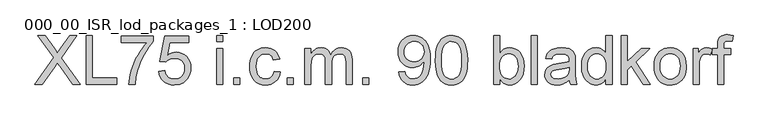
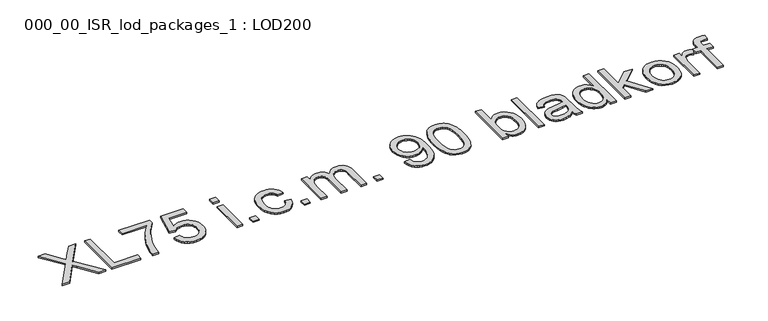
"""IFC4 building model written with IfcOpenShell, lengths in millimetres: proxy geometry, 000_00_ISR_lod_packages_1 : LOD200."""

import ifcopenshell
import ifcopenshell.guid

model = None  # the IFC model being written
_history = None  # IfcOwnerHistory: only IFC2X3 demands one
_inside = {}  # id of a spatial element -> (the spatial element, [elements in it])
_under = {}  # id of a project, library or spatial element -> (it, [spatial elements below it])
_declared = {}  # id of a project -> (the project, [libraries it declares])
_typed = {}  # id of a type object -> (the type object, [elements of that type])
_made_of = {}  # id of a material, layer set ... -> (it, [elements and type objects made of it])


def new_model(schema):
    """Start an empty IFC model of exactly this schema.

    Asked for "IFC4X3", IfcOpenShell would pick the latest addendum, in which some entities
    have other attributes; the version numbers below select the first issue.
    IFC2X3 requires an IfcOwnerHistory on every rooted entity: one is made here for all.
    """
    global model, _history
    if schema == "IFC4X3":
        model = ifcopenshell.file(schema_version=(4, 3, 0, 0))
    else:
        model = ifcopenshell.file(schema=schema)
    _inside.clear()
    _under.clear()
    _declared.clear()
    _typed.clear()
    _made_of.clear()
    _history = None
    if model.schema == "IFC2X3":
        org = make("IfcOrganization", Name="unknown")
        user = make(
            "IfcPersonAndOrganization",
            ThePerson=make("IfcPerson", FamilyName="unknown"),
            TheOrganization=org,
        )
        app = make(
            "IfcApplication",
            ApplicationDeveloper=org,
            Version="unknown",
            ApplicationFullName="unknown",
            ApplicationIdentifier="unknown",
        )
        _history = make(
            "IfcOwnerHistory",
            OwningUser=user,
            OwningApplication=app,
            ChangeAction="ADDED",
            CreationDate=0,
        )
    return model


def make(cls, **values):
    """One entity of the class cls with the attributes given. An attribute that is None is left unset."""
    return model.create_entity(
        cls, **{name: value for name, value in values.items() if value is not None}
    )


def rooted(cls, **values):
    """An entity with a GlobalId (a new one), such as an element, a storey or a relation."""
    return make(cls, GlobalId=ifcopenshell.guid.new(), OwnerHistory=_history, **values)


def si_unit(unit_type, name, prefix=None):
    """IfcSIUnit, for example si_unit("LENGTHUNIT", "METRE", prefix="MILLI")."""
    return make("IfcSIUnit", UnitType=unit_type, Prefix=prefix, Name=name)


def assignment(units):
    """IfcUnitAssignment: the units of a project."""
    return None if units is None else make("IfcUnitAssignment", Units=units)


def point(xyz):
    """IfcCartesianPoint."""
    return None if xyz is None else make("IfcCartesianPoint", Coordinates=xyz)


def direction(xyz):
    """IfcDirection."""
    return None if xyz is None else make("IfcDirection", DirectionRatios=xyz)


def frame(location, z_axis=None, x_axis=None):
    """IfcAxis2Placement3D, a coordinate frame: its origin and axes. An axis left out is left unset."""
    return make(
        "IfcAxis2Placement3D",
        Location=point(location),
        Axis=direction(z_axis),
        RefDirection=direction(x_axis),
    )


def origin():
    """The frame at (0, 0, 0) with its axes left unset."""
    return frame((0.0, 0.0, 0.0))


def origin_with_axes():
    """The frame at (0, 0, 0) with the z axis (0, 0, 1) and the x axis (1, 0, 0) written out."""
    return frame((0.0, 0.0, 0.0), z_axis=(0.0, 0.0, 1.0), x_axis=(1.0, 0.0, 0.0))


def place(relative_to, where):
    """IfcLocalPlacement: puts the frame where relative to a parent placement (None: the world)."""
    return make(
        "IfcLocalPlacement", PlacementRelTo=relative_to, RelativePlacement=where
    )


def context(
    kind, dimensions, precision=None, world=None, true_north=None, identifier=None
):
    """IfcGeometricRepresentationContext, for example the 3D "Model" context."""
    return make(
        "IfcGeometricRepresentationContext",
        ContextIdentifier=identifier,
        ContextType=kind,
        CoordinateSpaceDimension=dimensions,
        Precision=precision,
        WorldCoordinateSystem=world,
        TrueNorth=true_north,
    )


def project(units=None, contexts=None):
    """IfcProject with its units and contexts."""
    return rooted(
        "IfcProject",
        Name="project",
        RepresentationContexts=contexts,
        UnitsInContext=assignment(units),
    )


def spatial(cls, under=None, at=None, **own):
    """A site, building, storey or space (cls), placed at a placement, below another one or the project."""
    s = rooted(cls, ObjectPlacement=at, **own)
    if under is not None:
        _under.setdefault(under.id(), (under, []))[1].append(s)
    return s


def polyline(points):
    """IfcPolyline through the points."""
    return make("IfcPolyline", Points=[point(p) for p in points])


def outline(outer, holes=None, kind="AREA"):
    """IfcArbitraryClosedProfileDef: a profile drawn as a closed curve; with holes, ...WithVoids."""
    if holes is None:
        return make("IfcArbitraryClosedProfileDef", ProfileType=kind, OuterCurve=outer)
    return make(
        "IfcArbitraryProfileDefWithVoids",
        ProfileType=kind,
        OuterCurve=outer,
        InnerCurves=holes,
    )


def extrude(swept, where, along, depth):
    """IfcExtrudedAreaSolid: the profile swept, set in the frame where, extruded along a direction by depth."""
    return make(
        "IfcExtrudedAreaSolid",
        SweptArea=swept,
        Position=where,
        ExtrudedDirection=direction(along),
        Depth=depth,
    )


def shape(context_of_items, identifier, shape_type, items):
    """IfcShapeRepresentation: the items that make up one representation, for example the "Body"."""
    return make(
        "IfcShapeRepresentation",
        ContextOfItems=context_of_items,
        RepresentationIdentifier=identifier,
        RepresentationType=shape_type,
        Items=items,
    )


def source(mapping_origin, context_of_items, identifier, shape_type, items):
    """IfcRepresentationMap: a shape defined once, which mapped items show again and again."""
    return make(
        "IfcRepresentationMap",
        MappingOrigin=mapping_origin,
        MappedRepresentation=shape(context_of_items, identifier, shape_type, items),
    )


def transform(
    local_origin,
    x_axis=None,
    y_axis=None,
    z_axis=None,
    scale=None,
    scale2=None,
    scale3=None,
    uniform=True,
):
    """IfcCartesianTransformationOperator3D, or its non-uniform kind. x_axis, y_axis, z_axis: its Axis1, 2, 3."""
    if uniform:
        return make(
            "IfcCartesianTransformationOperator3D",
            Axis1=direction(x_axis),
            Axis2=direction(y_axis),
            LocalOrigin=point(local_origin),
            Scale=scale,
            Axis3=direction(z_axis),
        )
    return make(
        "IfcCartesianTransformationOperator3DnonUniform",
        Axis1=direction(x_axis),
        Axis2=direction(y_axis),
        LocalOrigin=point(local_origin),
        Scale=scale,
        Axis3=direction(z_axis),
        Scale2=scale2,
        Scale3=scale3,
    )


def mapped(mapping_source, mapping_target):
    """IfcMappedItem: shows the shape of a source again, moved by a transform."""
    return make(
        "IfcMappedItem", MappingSource=mapping_source, MappingTarget=mapping_target
    )


def made_of(thing, what):
    """Note that an element or type object is made of a material, layer set ...; save() writes the relation."""
    if what is not None:
        _made_of.setdefault(what.id(), (what, []))[1].append(thing)
    return thing


def element(
    cls,
    number,
    at=None,
    inside=None,
    cuts=None,
    type_object=None,
    material=None,
    context=None,
    identifier="Body",
    shape_type=None,
    held_by="IfcProductDefinitionShape",
    body=None,
    shapes=None,
    **own,
):
    """One element of the class cls, such as IfcWall. Its Tag is "e" and its number.

    at: its placement. inside: the storey or other place that contains it. cuts: it is an
    opening in that element (IfcRelVoidsElement). A single representation is given by context,
    identifier, shape_type and body (its items); several are given by shapes. held_by: the class
    of the entity that holds the representations. save() writes the other relations.
    """
    e = rooted(cls, Tag="e%d" % number, ObjectPlacement=at, **own)
    if body is not None:
        shapes = [shape(context, identifier, shape_type, body)]
    if shapes is not None:
        e.Representation = make(held_by, Representations=shapes)
    if inside is not None:
        _inside.setdefault(inside.id(), (inside, []))[1].append(e)
    if cuts is not None:
        rooted(
            "IfcRelVoidsElement", RelatingBuildingElement=cuts, RelatedOpeningElement=e
        )
    if type_object is not None:
        _typed.setdefault(type_object.id(), (type_object, []))[1].append(e)
    return made_of(e, material)


def aggregate(whole, parts):
    """IfcRelAggregates: a whole, such as a stair, and the parts it consists of."""
    return rooted("IfcRelAggregates", RelatingObject=whole, RelatedObjects=parts)


def save(model, path):
    """Write the relations noted so far, then the file.

    IfcRelAggregates (storeys below a building ...), IfcRelContainedInSpatialStructure (elements
    in a storey), IfcRelDefinesByType, IfcRelAssociatesMaterial and IfcRelDeclares: one each for
    every whole, place, type object, material and project.
    """
    for whole, parts in _under.values():
        aggregate(whole, parts)
    for where, things in _inside.values():
        rooted(
            "IfcRelContainedInSpatialStructure",
            RelatedElements=things,
            RelatingStructure=where,
        )
    for kind, things in _typed.values():
        rooted("IfcRelDefinesByType", RelatedObjects=things, RelatingType=kind)
    for what, things in _made_of.values():
        rooted("IfcRelAssociatesMaterial", RelatedObjects=things, RelatingMaterial=what)
    for by, libraries in _declared.values():
        rooted("IfcRelDeclares", RelatingContext=by, RelatedDefinitions=libraries)
    model.write(path)


def proxy_000_00_isr_lod_packages_1_lod200_f1342aa7(model_context):
    return source(origin(), model_context, "Body", "SweptSolid", [
        extrude(outline(polyline([(500.0, 500.0), (808.1627819, 935.6043884), (549.9617936, 1299.3886983), (669.7920331, 1299.3886983), (815.1886591, 1094.6624423), (849.878928, 1042.7978069), (864.1746365, 1014.8406705), (921.5526339, 1096.0285851), (1065.3879539, 1299.3886983), (1186.9746626, 1299.3886983), (928.7736744, 934.4334088), (1236.9364563, 500.0), (1117.1062168, 500.0), (911.7944711, 789.6222725), (869.0537179, 849.7325555), (822.0193731, 783.7673749), (621.5867088, 500.0), (500.0, 500.0)])), origin_with_axes(), (0.0, 0.0, 1.0), 25.0),
        extrude(outline(polyline([(1336.8600436, 500.0), (1336.8600436, 1299.3886983), (1436.7836309, 1299.3886983), (1436.7836309, 599.9235873), (1836.47798, 599.9235873), (1836.47798, 500.0), (1336.8600436, 500.0)])), origin_with_axes(), (0.0, 0.0, 1.0), 25.0),
        extrude(outline(polyline([(1911.4206705, 1186.9746626), (1911.4206705, 1286.8982499), (2436.0195038, 1286.8982499), (2436.0195038, 1206.1006618), (2398.5420597, 1161.9998647), (2361.2475812, 1111.4708778), (2324.1360682, 1054.5137012), (2287.2075208, 991.1283348), (2252.4623623, 924.059262), (2221.9010161, 856.050966), (2195.5234822, 787.1034468), (2173.3297606, 717.2167044), (2149.5198434, 613.3410612), (2136.2487419, 500.0), (2036.3251546, 500.0), (2039.4660633, 549.0713613), (2047.13232, 602.9974086), (2059.3239246, 661.7781419), (2076.0408773, 725.4135612), (2097.0880147, 790.8847349), (2122.2701737, 855.1727313), (2151.5873541, 918.2775505), (2185.039556, 980.1991924), (2221.1203631, 1039.1201993), (2258.3233588, 1093.2231133), (2296.6485433, 1142.5079344), (2336.0959165, 1186.9746626), (1911.4206705, 1186.9746626)])), origin_with_axes(), (0.0, 0.0, 1.0), 25.0),
        extrude(outline(polyline([(2523.4526427, 712.337623), (2623.37623, 724.8280714), (2630.8412245, 692.7054192), (2641.7215761, 664.8397655), (2656.0172846, 641.2311103), (2673.7283501, 621.8794536), (2694.8181795, 606.8091909), (2719.2501797, 596.0447176), (2747.0243506, 589.5860336), (2778.1406923, 587.4331389), (2816.1975273, 590.4276751), (2849.7656074, 599.4112837), (2878.8449326, 614.3839648), (2903.4355029, 635.3457183), (2922.9884217, 661.2597395), (2936.9547922, 691.0892235), (2945.3346146, 724.8341703), (2948.1278887, 762.4945799), (2945.5114813, 798.0874788), (2937.662259, 829.7283217), (2924.580222, 857.4171087), (2906.2653702, 881.1538398), (2882.656715, 900.194455), (2853.693268, 913.7948944), (2819.3750291, 921.9551581), (2779.7019984, 924.675246), (2731.2283246, 920.3328635), (2691.9761146, 907.3057162), (2660.6280165, 887.3502732), (2635.8666784, 862.2230039), (2535.9430911, 874.7134523), (2623.37623, 1286.8982499), (3010.5801307, 1286.8982499), (3010.5801307, 1186.9746626), (2704.1738181, 1186.9746626), (2661.433065, 966.8305094), (2696.6966259, 992.1041511), (2732.814026, 1010.1567523), (2769.7852654, 1020.988313), (2807.610344, 1024.5988333), (2856.2730823, 1020.1222761), (2900.9715668, 1006.6926045), (2941.7057978, 984.3098185), (2978.475775, 952.9739182), (3008.9151442, 914.5999429), (3030.6575507, 871.1029321), (3043.7029947, 822.4828858), (3048.051476, 768.7398041), (3044.1360131, 716.9727503), (3032.3896246, 668.8162168), (3012.8123105, 624.2702035), (2985.4040707, 583.3347105), (2965.5096162, 560.8756889), (2943.8830878, 541.4112035), (2920.5244856, 524.9412543), (2895.4338094, 511.4658413), (2868.6110594, 500.9849646), (2840.0562354, 493.498624), (2777.7503658, 487.5095516), (2726.1845741, 491.3579271), (2679.6076432, 502.9030534), (2638.0195731, 522.1449308), (2601.4203636, 549.083559), (2570.9687968, 582.3771908), (2547.8236543, 620.6840787), (2531.9849363, 664.0042228), (2523.4526427, 712.337623)])), origin_with_axes(), (0.0, 0.0, 1.0), 25.0),
        extrude(outline(polyline([(3472.726722, 500.0), (3472.726722, 1087.0510753), (3572.6503093, 1087.0510753), (3572.6503093, 500.0), (3472.726722, 500.0)])), origin_with_axes(), (0.0, 0.0, 1.0), 25.0),
        extrude(outline(polyline([(3472.726722, 1199.465111), (3472.726722, 1299.3886983), (3572.6503093, 1299.3886983), (3572.6503093, 1199.465111), (3472.726722, 1199.465111)])), origin_with_axes(), (0.0, 0.0, 1.0), 25.0),
        extrude(outline(polyline([(3747.516587, 500.0), (3747.516587, 599.9235873), (3847.4401743, 599.9235873), (3847.4401743, 500.0), (3747.516587, 500.0)])), origin_with_axes(), (0.0, 0.0, 1.0), 25.0),
        extrude(outline(polyline([(4409.5103528, 712.337623), (4509.4339401, 699.8471746), (4498.5657863, 652.6969516), (4481.5743853, 610.9747067), (4458.4597371, 574.6804398), (4429.2218417, 543.8141511), (4395.0926673, 519.1808888), (4357.3041817, 501.5857015), (4315.8563851, 491.0285891), (4270.7492775, 487.5095516), (4214.7069287, 492.4191273), (4164.458489, 507.1478543), (4120.0039585, 531.6957326), (4081.3433371, 566.0627623), (4050.0501287, 609.602465), (4027.697837, 661.6683625), (4014.286462, 722.2604548), (4009.8160037, 791.3787419), (4011.7249443, 837.3213922), (4017.4517661, 880.3000006), (4026.9964691, 920.314567), (4040.3590533, 957.3650914), (4057.6310015, 990.707514), (4078.9037964, 1019.5977748), (4104.1774381, 1044.0358739), (4133.4519266, 1064.0218111), (4165.403811, 1079.5616854), (4198.7096405, 1090.6615956), (4233.369415, 1097.3215417), (4269.3831347, 1099.5415238), (4313.7156882, 1096.4920979), (4353.8156385, 1087.3438202), (4389.6829857, 1072.0966908), (4421.3177298, 1050.7507096), (4448.1831719, 1023.7937849), (4469.7426128, 991.7138246), (4485.9960528, 954.5108288), (4496.9434917, 912.1847976), (4397.0199044, 899.6943492), (4389.219473, 923.0346549), (4378.894117, 943.2889416), (4366.0438363, 960.4572093), (4350.668631, 974.539458), (4333.1588276, 985.5112923), (4313.9047526, 993.3483169), (4292.906406, 998.0505316), (4270.1637877, 999.6179365), (4236.21148, 996.5319175), (4205.5891453, 987.2738605), (4178.2967836, 971.8437655), (4154.334395, 950.2416326), (4134.8241683, 921.9673558), (4120.888292, 886.5208294), (4112.5267662, 843.9020532), (4109.739591, 794.1110274), (4112.4657777, 743.5698429), (4120.6443379, 700.4570598), (4134.2752716, 664.7726781), (4153.3585788, 636.5166979), (4176.8452569, 615.0426408), (4203.6863035, 599.7040286), (4233.8817186, 590.5008613), (4267.4315021, 587.4331389), (4294.467712, 589.3481783), (4319.1741605, 595.0932967), (4341.5508476, 604.668494), (4361.5977734, 618.0737701), (4378.7538434, 635.4554977), (4392.4579633, 656.960049), (4402.7101331, 682.5874241), (4409.5103528, 712.337623)])), origin_with_axes(), (0.0, 0.0, 1.0), 25.0),
        extrude(outline(polyline([(4621.8479758, 500.0), (4621.8479758, 599.9235873), (4721.7715631, 599.9235873), (4721.7715631, 500.0), (4621.8479758, 500.0)])), origin_with_axes(), (0.0, 0.0, 1.0), 25.0),
        extrude(outline(polyline([(4909.1282893, 500.0), (4909.1282893, 1087.0510753), (5009.0518766, 1087.0510753), (5009.0518766, 990.4452634), (5039.1070181, 1034.8205088), (5057.3547826, 1053.4037102), (5077.7493428, 1069.5839639), (5099.961361, 1082.6903963), (5123.6614989, 1092.0521338), (5148.8497567, 1097.6691763), (5175.5261343, 1099.5415238), (5204.6908435, 1097.6325832), (5231.0988716, 1091.9057613), (5254.7502187, 1082.3610583), (5275.6448849, 1068.9984741), (5293.7218815, 1052.1961375), (5308.9202201, 1032.3321773), (5321.2399007, 1009.4065935), (5330.6809232, 983.4193862), (5367.1032659, 1034.2228214), (5387.2355756, 1054.1813138), (5408.6486441, 1070.5109894), (5431.3424715, 1083.2118482), (5455.3170578, 1092.2838902), (5480.572403, 1097.7271154), (5507.108507, 1099.5415238), (5547.1108757, 1096.5225921), (5582.2219653, 1087.4657973), (5612.4417758, 1072.3711392), (5637.7703072, 1051.2386178), (5657.7928375, 1023.8242791), (5672.0946449, 989.884169), (5680.6757293, 949.4182876), (5683.5360908, 902.4266348), (5683.5360908, 500.0), (5583.6125035, 500.0), (5583.6125035, 859.4907183), (5581.2949398, 909.330535), (5574.3422488, 942.9230105), (5561.3151015, 965.9278793), (5540.7741687, 984.0048759), (5514.3539429, 995.7146713), (5483.6889162, 999.6179365), (5455.3719475, 997.1174072), (5429.555508, 989.6158196), (5406.2395977, 977.1131735), (5385.4242166, 959.6094689), (5368.3047397, 936.5924023), (5356.0765419, 907.5496702), (5348.7396233, 872.4812726), (5346.2939837, 831.3872094), (5346.2939837, 500.0), (5246.3703964, 500.0), (5246.3703964, 870.615024), (5244.9249685, 900.8897241), (5240.5886849, 927.1147867), (5233.3615456, 949.2902117), (5223.2435505, 967.4159992), (5209.8321755, 981.5043467), (5192.7248963, 991.5674521), (5171.9217129, 997.6053154), (5147.4226254, 999.6179365), (5108.9266731, 994.2509469), (5073.4557512, 978.1499783), (5057.6475274, 966.1718334), (5044.1812627, 951.705357), (5033.0569571, 934.7505491), (5024.2746106, 915.3074097), (5012.8575601, 864.8089171), (5009.0518766, 796.06266), (5009.0518766, 500.0), (4909.1282893, 500.0)])), origin_with_axes(), (0.0, 0.0, 1.0), 25.0),
        extrude(outline(polyline([(5858.4023686, 500.0), (5858.4023686, 599.9235873), (5958.3259559, 599.9235873), (5958.3259559, 500.0), (5858.4023686, 500.0)])), origin_with_axes(), (0.0, 0.0, 1.0), 25.0),
        extrude(outline(polyline([(6445.4534439, 699.8471746), (6545.3770312, 712.337623), (6552.5736763, 681.7152883), (6562.4538161, 655.6183016), (6575.0174508, 634.0466629), (6590.2645802, 617.0003722), (6608.0244365, 604.0647076), (6628.1262519, 594.8249472), (6650.5700264, 589.281091), (6675.35576, 587.4331389), (6717.730582, 592.1902433), (6756.2509298, 606.4615564), (6788.2577038, 628.6857722), (6811.0918048, 657.3015847), (6828.3881484, 694.9193024), (6843.7816503, 744.1492338), (6854.613211, 800.6489965), (6858.2237313, 860.0762081), (6857.6382415, 879.5925338), (6841.6653487, 857.3683179), (6823.0211589, 837.3396887), (6801.705672, 819.5066462), (6777.718888, 803.8691903), (6751.8780531, 791.1469855), (6725.0004133, 782.0596964), (6697.0859688, 776.6073229), (6668.1347195, 774.7898651), (6620.6673562, 779.2298291), (6577.0178742, 792.5497214), (6537.1862733, 814.7495418), (6501.1725536, 845.8292904), (6471.330872, 884.1666726), (6450.015385, 928.1393938), (6437.2260929, 977.747454), (6432.9629955, 1032.9908533), (6437.4334538, 1090.0761058), (6450.8448289, 1141.3064606), (6473.1971206, 1186.6819178), (6504.490329, 1226.2024772), (6542.5166697, 1258.2214489), (6585.0683585, 1281.0921431), (6632.1453953, 1294.8145595), (6683.74778, 1299.3886983), (6721.847307, 1296.7783898), (6758.2757486, 1288.9474641), (6793.0331048, 1275.8959213), (6826.1193756, 1257.6237615), (6856.4306689, 1234.521311), (6882.8630924, 1206.9788964), (6905.4166462, 1174.9965178), (6924.0913303, 1138.574175), (6938.7346734, 1095.6138632), (6949.1942042, 1044.0175773), (6955.4699226, 983.7853173), (6957.5618288, 914.9170832), (6955.4760215, 842.5908001), (6949.2185996, 778.0344542), (6938.7895631, 721.2480454), (6924.1889119, 672.2315738), (6905.4715359, 629.7896644), (6882.6923245, 592.7269422), (6855.8512779, 561.0434073), (6824.948396, 534.7390596), (6790.6057618, 514.0761499), (6753.445458, 499.3169286), (6713.4674847, 490.4613958), (6670.6718418, 487.5095516), (6625.7964906, 490.9919959), (6585.2391263, 501.439329), (6548.9997492, 518.8515508), (6517.078359, 543.2286613), (6490.2800044, 573.9119845), (6469.4097336, 610.2428445), (6454.4675468, 652.2212412), (6445.4534439, 699.8471746)]), holes=[polyline([(6857.6382415, 1035.3328124), (6854.942549, 1071.1452699), (6846.8554716, 1103.0544624), (6833.3770092, 1131.0603897), (6814.5071618, 1155.1630518), (6791.172955, 1174.5452027), (6764.3014141, 1188.3895962), (6733.8925392, 1196.6962323), (6699.9463303, 1199.465111), (6664.9145258, 1196.4827725), (6633.2004966, 1187.535757), (6604.8042428, 1172.6240644), (6579.7257643, 1151.7476949), (6559.2336224, 1126.1264186), (6544.5963782, 1096.980006), (6535.8140316, 1064.3084571), (6532.8865828, 1028.1117719), (6535.6554615, 995.647584), (6543.9620976, 966.3669966), (6557.8064911, 940.27001), (6577.188642, 917.3566239), (6601.3035019, 898.7002363), (6629.3460223, 885.3742452), (6661.3162032, 877.3786506), (6697.2140447, 874.7134523), (6730.690642, 877.3786506), (6761.056825, 885.3742452), (6788.3125935, 898.7002363), (6812.4579476, 917.3566239), (6832.2243262, 940.721325), (6846.343168, 968.1722568), (6854.8144731, 999.7094192), (6857.6382415, 1035.3328124)])]), origin_with_axes(), (0.0, 0.0, 1.0), 25.0),
        extrude(outline(polyline([(7044.9949677, 893.2539617), (7046.8307221, 960.469407), (7052.3379852, 1021.2078717), (7061.5167571, 1075.4693558), (7074.3670378, 1123.2538594), (7090.8339375, 1164.9517089), (7110.8625667, 1200.9532309), (7134.4529253, 1231.2584253), (7161.6050134, 1255.8672922), (7192.4103137, 1274.9079074), (7226.9603089, 1288.5083468), (7265.2549991, 1296.6686105), (7307.2943843, 1299.3886983), (7338.8864365, 1297.7786015), (7368.8683917, 1292.9483109), (7397.2402501, 1284.8978266), (7424.0020117, 1273.6271485), (7448.5071981, 1259.3253411), (7470.109331, 1242.1814688), (7488.8084105, 1222.1955316), (7504.6044366, 1199.3675294), (7530.6587313, 1145.5512615), (7551.4436181, 1081.098596), (7559.3843231, 1043.1942323), (7565.0562553, 999.2520054), (7569.593801, 893.2539617), (7567.7763431, 826.465436), (7562.3239697, 766.0319139), (7553.2366805, 711.9533953), (7540.5144758, 664.2298803), (7524.1756519, 622.5137342), (7504.2385055, 586.4573226), (7480.7030365, 556.0606454), (7453.569245, 531.3237027), (7422.7273516, 512.1550116), (7388.0675771, 498.4630894), (7349.5899213, 490.247936), (7307.2943843, 487.5095516), (7252.258346, 492.266656), (7203.4675319, 506.5379691), (7160.921942, 530.323491), (7124.6215763, 563.6232216), (7105.9590899, 591.8700535), (7089.784935, 623.8188885), (7076.0991117, 659.4697265), (7064.9016198, 698.8225675), (7049.9716307, 788.6342586), (7044.9949677, 893.2539617)]), holes=[polyline([(7144.918555, 893.449125), (7147.8460038, 806.5831793), (7156.6283504, 736.2695173), (7171.2655946, 682.508139), (7180.7798033, 661.8345563), (7191.7577365, 645.2990444), (7216.5434701, 619.9827107), (7244.0614892, 601.8996153), (7274.311794, 591.049758), (7307.2943843, 587.4331389), (7340.2769747, 591.0619557), (7370.5272794, 601.9484061), (7398.0452986, 620.0924901), (7422.8310321, 645.4942077), (7433.8089653, 662.069362), (7443.3231741, 682.7642908), (7457.9604183, 736.5134714), (7466.7427648, 806.7417494), (7469.6702137, 893.449125), (7466.8403465, 978.0158035), (7458.3507448, 1047.0913986), (7444.2014087, 1100.6759102), (7424.3923382, 1138.7693383), (7400.0213265, 1165.3237389), (7372.1861671, 1184.2911679), (7340.8868598, 1195.6716253), (7306.1234048, 1199.465111), (7273.3115823, 1196.1229403), (7243.5735811, 1186.096428), (7216.9094012, 1169.3855742), (7193.3190426, 1145.9903788), (7172.1438292, 1104.5181868), (7157.0186769, 1048.6039138), (7147.9435854, 978.2475599), (7144.918555, 893.449125)])]), origin_with_axes(), (0.0, 0.0, 1.0), 25.0),
        extrude(outline(polyline([(8094.1926342, 500.0), (7994.269047, 500.0), (7994.269047, 1299.3886983), (8094.1926342, 1299.3886983), (8094.1926342, 1002.9357118), (8127.0532476, 1045.2007545), (8164.1586617, 1075.3900708), (8184.3031691, 1085.9563315), (8205.5088766, 1093.5036605), (8251.1038924, 1099.5415238), (8302.5782013, 1094.101348), (8351.222643, 1077.7808207), (8394.256141, 1051.6045489), (8428.897619, 1016.5971398), (8456.0497071, 973.100129), (8476.6150352, 921.4550523), (8489.5689964, 863.8087054), (8493.8869834, 802.3078842), (8489.4165251, 731.3416451), (8476.00515, 668.9137984), (8453.6528583, 615.0243443), (8422.3596499, 569.6732825), (8384.7968219, 533.7266503), (8343.6356714, 508.0504843), (8298.8761983, 492.6447848), (8250.5184027, 487.5095516), (8226.3029117, 489.1653898), (8203.4230693, 494.1329046), (8181.8788755, 502.4120959), (8161.6703302, 514.0029636), (8142.7974334, 528.9055079), (8125.2601851, 547.1197287), (8094.1926342, 593.4831998), (8094.1926342, 500.0)]), holes=[polyline([(8094.1926342, 797.6239661), (8095.9003127, 752.5900446), (8101.0233482, 714.2892556), (8109.5617407, 682.7215988), (8121.5154901, 657.8870745), (8145.7279317, 627.0634776), (8173.8680337, 605.0466228), (8205.9357963, 591.8365099), (8241.9312194, 587.4331389), (8271.815593, 590.677728), (8299.6019616, 600.4114954), (8325.2903253, 616.6344411), (8348.8806839, 639.3465651), (8368.6043705, 668.4868788), (8382.6927181, 703.9943938), (8391.1457266, 745.86911), (8393.9633961, 794.1110274), (8391.2616048, 843.2677727), (8383.1562308, 885.5450131), (8369.6472741, 920.9427487), (8350.7347348, 949.4609796), (8327.9921166, 971.4046482), (8302.9929232, 987.0786972), (8275.7371547, 996.4831267), (8246.224811, 999.6179365), (8216.3404374, 996.3733473), (8188.5540687, 986.6395799), (8162.8657051, 970.4166342), (8139.2753465, 947.7045103), (8119.5516599, 918.8569414), (8105.4633123, 884.2276611), (8097.0103038, 843.8166693), (8094.1926342, 797.6239661)])]), origin_with_axes(), (0.0, 0.0, 1.0), 25.0),
        extrude(outline(polyline([(8606.3010191, 500.0), (8606.3010191, 1299.3886983), (8706.2246064, 1299.3886983), (8706.2246064, 500.0), (8606.3010191, 500.0)])), origin_with_axes(), (0.0, 0.0, 1.0), 25.0),
        extrude(outline(polyline([(9230.8234397, 574.9426905), (9183.0816281, 534.0071974), (9158.6801222, 518.8454519), (9133.9248829, 507.2210405), (9082.2310153, 492.4374238), (9026.8778367, 487.5095516), (8982.3867131, 490.4735935), (8943.3723584, 499.3657194), (8909.8347725, 514.1859292), (8881.7739556, 534.9342229), (8859.6168271, 560.2932485), (8843.7903068, 588.9456541), (8834.2943946, 620.8914397), (8831.1290905, 656.1306051), (8835.9105903, 697.5540063), (8850.2550897, 735.171724), (8872.3817239, 767.3736613), (8900.5096282, 792.5497214), (8933.5654048, 811.5781389), (8970.4756556, 825.3371485), (9056.9329782, 840.3647192), (9159.100943, 856.172943), (9230.2379499, 874.7134523), (9230.8234397, 896.9620636), (9229.1035635, 921.1867028), (9223.9439349, 941.5568677), (9215.3445539, 958.0725583), (9203.3054205, 970.7337745), (9182.4961383, 983.3705954), (9157.1493104, 992.396896), (9127.2649368, 997.8126763), (9092.8430174, 999.6179365), (9033.3182242, 994.8120413), (9010.2889599, 988.8046723), (8991.7484506, 980.3943557), (8976.5135189, 968.9224155), (8963.4009876, 953.7301758), (8952.4108567, 934.8176365), (8943.5431262, 912.1847976), (8843.6195389, 924.675246), (8860.9646734, 979.3209578), (8872.8391377, 1002.2526404), (8886.8482002, 1022.2568742), (8903.5956472, 1039.7361834), (8923.6852649, 1055.0930921), (8947.1170534, 1068.3276004), (8973.8910126, 1079.4397083), (9035.2942522, 1094.5160699), (9105.7237923, 1099.5415238), (9173.2746745, 1095.1015597), (9226.8225929, 1081.7816674), (9267.1969916, 1061.7530382), (9295.2273143, 1037.1868633), (9313.8166145, 1006.8145815), (9325.8679456, 969.3676317), (9329.5272566, 934.8237353), (9330.747027, 881.9344928), (9330.747027, 757.6154985), (9332.0155882, 649.3242866), (9335.8212717, 584.0177819), (9343.335057, 541.1062609), (9355.7279238, 500.0), (9255.8043365, 500.0), (9239.8009495, 534.7390596), (9230.8234397, 574.9426905)]), holes=[polyline([(9230.8234397, 774.7898651), (9163.6872795, 758.1521974), (9069.6185899, 744.1492338), (9017.7783499, 736.489076), (8983.6491754, 727.9506835), (8961.2785872, 716.8751687), (8944.7141058, 701.6036439), (8934.4680348, 683.3070886), (8931.0526778, 663.1564824), (8932.9128276, 647.6288058), (8938.493277, 633.4428766), (8947.7940259, 620.5986948), (8960.8150744, 609.0962603), (8977.4344455, 599.6186447), (8997.530162, 592.8489192), (9048.1506317, 587.4331389), (9101.8205272, 593.4100136), (9126.3135159, 600.881107), (9149.2451985, 611.3406378), (9187.69236, 637.7608636), (9214.4297262, 669.2065433), (9226.285894, 701.6036439), (9230.2379499, 746.4911929), (9230.8234397, 774.7898651)])]), origin_with_axes(), (0.0, 0.0, 1.0), 25.0),
        extrude(outline(polyline([(9830.3649635, 500.0), (9830.3649635, 594.2638529), (9800.4683921, 547.5588461), (9783.1507025, 529.2104505), (9764.2534103, 514.1981269), (9743.7765155, 502.5218752), (9721.7200181, 494.1816954), (9698.0839181, 489.1775875), (9672.8682155, 487.5095516), (9639.8856252, 489.9246969), (9608.2691776, 497.1701328), (9578.0188729, 509.2458593), (9549.1347109, 526.1518764), (9522.5193218, 547.3819794), (9499.0753357, 572.4299635), (9478.8027524, 601.2958289), (9461.7015721, 633.9795755), (9448.125528, 669.8591205), (9438.4283537, 708.3123808), (9432.6100492, 749.3393566), (9430.6706143, 792.9400479), (9432.4575779, 835.7417896), (9437.8184686, 876.5187125), (9446.7532864, 915.2708166), (9459.2620314, 951.9981019), (9475.3386046, 985.6271705), (9494.9769073, 1015.0846245), (9518.1769394, 1040.3704639), (9544.9387009, 1061.4846888), (9574.3168699, 1078.1345541), (9605.3661242, 1090.027315), (9638.0864639, 1097.1629716), (9672.477889, 1099.5415238), (9697.6295537, 1097.8399441), (9721.3662847, 1092.7352052), (9743.6880822, 1084.227307), (9764.594946, 1072.3162495), (9801.2368474, 1041.0169422), (9830.3649635, 1001.569569), (9830.3649635, 1299.3886983), (9930.2885508, 1299.3886983), (9930.2885508, 500.0), (9830.3649635, 500.0)]), holes=[polyline([(9530.5942016, 793.3303744), (9533.4118711, 744.8749972), (9541.8648796, 702.9453913), (9555.9532272, 667.5415568), (9575.6769138, 638.6634937), (9599.2306793, 616.2502135), (9624.8092636, 600.2407276), (9652.4126667, 590.6350361), (9682.0408886, 587.4331389), (9711.809384, 590.4886636), (9739.2481181, 599.6552378), (9764.3570908, 614.9328615), (9787.1363022, 636.3215346), (9806.0488415, 663.9920251), (9819.5577981, 698.1151007), (9827.6631721, 738.6907615), (9830.3649635, 785.7190074), (9827.6143813, 837.2787002), (9819.3626349, 881.4953755), (9805.6097242, 918.3690333), (9786.3556491, 947.8996735), (9763.076332, 970.5264136), (9737.2476947, 986.6883707), (9708.8697375, 996.385545), (9677.9424602, 999.6179365), (9647.7287486, 996.5136209), (9620.1253455, 987.2006743), (9595.1322509, 971.6790965), (9572.749465, 949.9488877), (9554.3065372, 921.5343373), (9541.1330174, 885.959735), (9533.2289055, 843.2250807), (9530.5942016, 793.3303744)])]), origin_with_axes(), (0.0, 0.0, 1.0), 25.0),
        extrude(outline(polyline([(10080.1739317, 500.0), (10080.1739317, 1299.3886983), (10180.097519, 1299.3886983), (10180.097519, 869.8343709), (10404.1449374, 1087.0510753), (10542.3205229, 1087.0510753), (10315.5408189, 867.1020853), (10554.8109713, 500.0), (10438.103344, 500.0), (10243.9159038, 797.6239661), (10180.097519, 735.7572138), (10180.097519, 500.0), (10080.1739317, 500.0)])), origin_with_axes(), (0.0, 0.0, 1.0), 25.0),
        extrude(outline(polyline([(10617.2632134, 793.5255377), (10622.6667961, 869.5538238), (10629.4212744, 903.6250591), (10638.877544, 935.0676894), (10651.035605, 963.8817146), (10665.8954574, 990.0671346), (10683.457101, 1013.6239495), (10703.720536, 1034.5521594), (10741.8017664, 1062.9850063), (10783.8350528, 1083.2941827), (10829.8203951, 1095.4796885), (10879.7577933, 1099.5415238), (10934.8853144, 1094.595355), (10984.7312298, 1079.7568486), (11029.2955397, 1055.0260047), (11068.5782439, 1020.4028233), (11100.6399076, 977.0582838), (11123.541096, 926.1633658), (11137.281809, 867.7180694), (11141.8620467, 801.7223944), (11139.8372279, 748.2354645), (11133.7627715, 700.7742001), (11123.6386776, 659.3386012), (11109.4649461, 623.9286678), (11091.4184437, 593.3429262), (11069.6760372, 566.3799026), (11044.2377265, 543.0395969), (11015.1035116, 523.3220091), (10983.407779, 507.654059), (10950.2849151, 496.462666), (10915.7349198, 489.7478302), (10879.7577933, 487.5095516), (10823.8252238, 492.4374238), (10773.5157956, 507.2210405), (10728.8295087, 531.8604016), (10689.7663632, 566.3555072), (10658.0462351, 610.1208674), (10635.3890008, 662.5709926), (10621.7946603, 723.7058827), (10617.2632134, 793.5255377)]), holes=[polyline([(10717.1868007, 793.7207009), (10720.0776564, 745.253126), (10728.7502236, 703.286927), (10743.2045023, 667.822104), (10763.4404925, 638.858657), (10788.0554582, 616.3599928), (10815.6466636, 600.2895184), (10846.2141086, 590.6472338), (10879.7577933, 587.4331389), (10913.1307101, 590.6655303), (10943.5761781, 600.3627046), (10971.0941973, 616.5246618), (10995.6847676, 639.1514018), (11015.9207578, 668.4014949), (11030.3750364, 704.4335111), (11039.0476036, 747.2474505), (11041.9384594, 796.843313), (11039.0293071, 843.7739774), (11030.3018502, 884.642383), (11015.7560888, 919.44853), (10995.3920227, 948.1924184), (10970.7099696, 970.6910825), (10943.210247, 986.7615569), (10912.8928549, 996.4038416), (10879.7577933, 999.6179365), (10846.2141086, 996.4160393), (10815.6466636, 986.8103478), (10788.0554582, 970.8008619), (10763.4404925, 948.3875817), (10743.2045023, 919.5095186), (10728.7502236, 884.1056841), (10720.0776564, 842.1760782), (10717.1868007, 793.7207009)])]), origin_with_axes(), (0.0, 0.0, 1.0), 25.0),
        extrude(outline(polyline([(11254.2760824, 500.0), (11254.2760824, 1087.0510753), (11341.7092213, 1087.0510753), (11341.7092213, 1000.2034262), (11374.0087402, 1050.5555464), (11389.2070788, 1067.973867), (11403.7711368, 1080.2203614), (11433.631115, 1094.7112332), (11466.2233789, 1099.5415238), (11491.0091124, 1097.6142866), (11515.9900093, 1091.8325751), (11541.1660693, 1082.1963893), (11566.5372927, 1068.7057292), (11533.1643758, 979.1257945), (11498.0349897, 994.494901), (11462.9056035, 999.6179365), (11433.0700207, 994.6900642), (11406.4058408, 979.9064476), (11384.8646963, 956.3892752), (11370.39822, 925.2607358), (11358.2493072, 869.4440444), (11354.1996697, 808.5531084), (11354.1996697, 500.0), (11254.2760824, 500.0)])), origin_with_axes(), (0.0, 0.0, 1.0), 25.0),
        extrude(outline(polyline([(11653.9704316, 500.0), (11653.9704316, 987.1274881), (11566.5372927, 987.1274881), (11566.5372927, 1087.0510753), (11653.9704316, 1087.0510753), (11653.9704316, 1146.185542), (11656.6051355, 1195.1227286), (11664.5092474, 1229.5202525), (11673.1940123, 1246.9995617), (11684.6110628, 1262.7467969), (11715.6420206, 1289.0450458), (11735.621859, 1299.0349649), (11759.0658451, 1306.1706215), (11785.9739791, 1310.4520154), (11816.3462609, 1311.8791468), (11859.7212946, 1309.1468612), (11907.4875017, 1300.9500044), (11892.8502574, 1207.2716413), (11835.2770968, 1211.9555595), (11797.293448, 1207.8083403), (11783.1868039, 1202.6243163), (11772.3369466, 1195.3666827), (11764.2681657, 1185.2791818), (11758.5047508, 1171.6055562), (11753.8940188, 1133.4999304), (11753.8940188, 1087.0510753), (11866.3080546, 1087.0510753), (11866.3080546, 987.1274881), (11753.8940188, 987.1274881), (11753.8940188, 500.0), (11653.9704316, 500.0)])), origin_with_axes(), (0.0, 0.0, 1.0), 25.0),
    ])


if __name__ == "__main__":
    model = new_model("IFC4")
    model_context = context("Model", 3, world=origin())
    ifc_project = project(units=[si_unit("LENGTHUNIT", "METRE", prefix="MILLI")], contexts=[model_context])
    site = spatial("IfcSite", under=ifc_project)
    building = spatial("IfcBuilding", under=site)
    placement = place(None, origin())
    proxy_000_00_isr_lod_packages_1_lod200_shape = proxy_000_00_isr_lod_packages_1_lod200_f1342aa7(model_context)
    element("IfcBuildingElementProxy", 1, Name="000_00_ISR_lod_packages_1 : LOD200", ObjectType="000_00_ISR_lod_packages_1 : LOD200", at=placement, inside=building, context=model_context, shape_type="MappedRepresentation", body=[
        mapped(proxy_000_00_isr_lod_packages_1_lod200_shape, transform((0.0, 0.0, 0.0), x_axis=(1.0, 0.0, 0.0), y_axis=(0.0, 1.0, 0.0), z_axis=(0.0, 0.0, 1.0))),
    ])
    save(model, "model.ifc")
